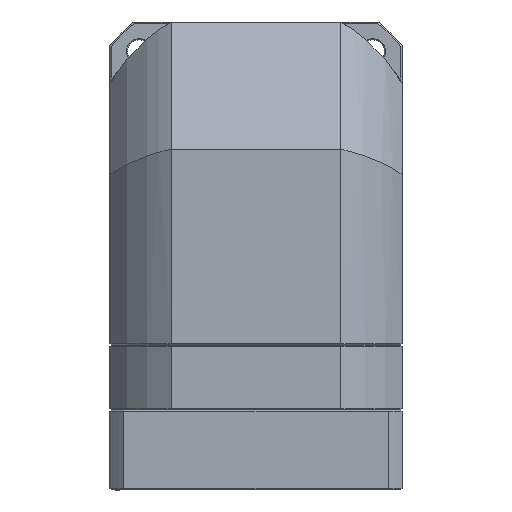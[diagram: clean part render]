
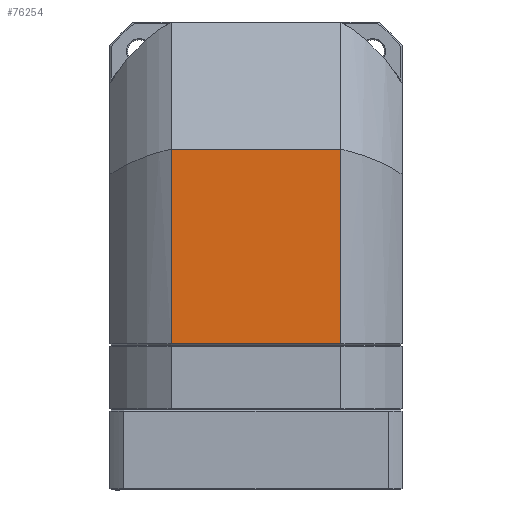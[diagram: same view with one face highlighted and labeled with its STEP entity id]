
A CAD part, front view. The second image highlights one B-rep face of the part: STEP entity #76254.
In plain terms, the highlighted planar face has unit normal (0, 1, 0).
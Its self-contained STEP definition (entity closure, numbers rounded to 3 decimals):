
#3565 = VERTEX_POINT ( 'NONE', #33180 ) ;
#4540 = CARTESIAN_POINT ( 'NONE',  ( -33.407, -172.111, -69.2 ) ) ;
#6104 = CARTESIAN_POINT ( 'NONE',  ( 0., -172.111, 7.5 ) ) ;
#9152 = EDGE_CURVE ( 'NONE', #3565, #28732, #18522, .T. ) ;
#12372 = DIRECTION ( 'NONE',  ( 1., 0., 0. ) ) ;
#12716 = CARTESIAN_POINT ( 'NONE',  ( -33.407, -172.111, 7.5 ) ) ;
#13932 = DIRECTION ( 'NONE',  ( 1., 0., 0. ) ) ;
#15751 = CARTESIAN_POINT ( 'NONE',  ( 33.407, -172.111, -69.2 ) ) ;
#18522 = LINE ( 'NONE', #84393, #64654 ) ;
#19228 = EDGE_LOOP ( 'NONE', ( #58738, #49056, #60158, #41597 ) ) ;
#22914 = CARTESIAN_POINT ( 'NONE',  ( -33.407, -172.111, -30.62 ) ) ;
#27648 = PLANE ( 'NONE',  #29130 ) ;
#28732 = VERTEX_POINT ( 'NONE', #15751 ) ;
#29130 = AXIS2_PLACEMENT_3D ( 'NONE', #4540, #58884, #12372 ) ;
#31663 = VERTEX_POINT ( 'NONE', #95198 ) ;
#33180 = CARTESIAN_POINT ( 'NONE',  ( 33.407, -172.111, 7.5 ) ) ;
#34916 = LINE ( 'NONE', #42539, #94199 ) ;
#38152 = DIRECTION ( 'NONE',  ( 0., 0., -1. ) ) ;
#38798 = LINE ( 'NONE', #6104, #77433 ) ;
#41597 = ORIENTED_EDGE ( 'NONE', *, *, #48272, .T. ) ;
#42539 = CARTESIAN_POINT ( 'NONE',  ( 0., -172.111, -69.2 ) ) ;
#48272 = EDGE_CURVE ( 'NONE', #100531, #3565, #38798, .T. ) ;
#49056 = ORIENTED_EDGE ( 'NONE', *, *, #63078, .F. ) ;
#54003 = VECTOR ( 'NONE', #69313, 1000. ) ;
#58079 = DIRECTION ( 'NONE',  ( 1., 0., 0. ) ) ;
#58738 = ORIENTED_EDGE ( 'NONE', *, *, #9152, .T. ) ;
#58884 = DIRECTION ( 'NONE',  ( 0., -1., 0. ) ) ;
#59544 = EDGE_CURVE ( 'NONE', #31663, #100531, #72035, .T. ) ;
#60158 = ORIENTED_EDGE ( 'NONE', *, *, #59544, .T. ) ;
#63078 = EDGE_CURVE ( 'NONE', #31663, #28732, #34916, .T. ) ;
#64654 = VECTOR ( 'NONE', #38152, 1000. ) ;
#69313 = DIRECTION ( 'NONE',  ( 0., 0., 1. ) ) ;
#72035 = LINE ( 'NONE', #22914, #54003 ) ;
#76254 = ADVANCED_FACE ( 'NONE', ( #85115 ), #27648, .F. ) ;
#77433 = VECTOR ( 'NONE', #13932, 1000. ) ;
#84393 = CARTESIAN_POINT ( 'NONE',  ( 33.407, -172.111, -30.62 ) ) ;
#85115 = FACE_OUTER_BOUND ( 'NONE', #19228, .T. ) ;
#94199 = VECTOR ( 'NONE', #58079, 1000. ) ;
#95198 = CARTESIAN_POINT ( 'NONE',  ( -33.407, -172.111, -69.2 ) ) ;
#100531 = VERTEX_POINT ( 'NONE', #12716 ) ;
